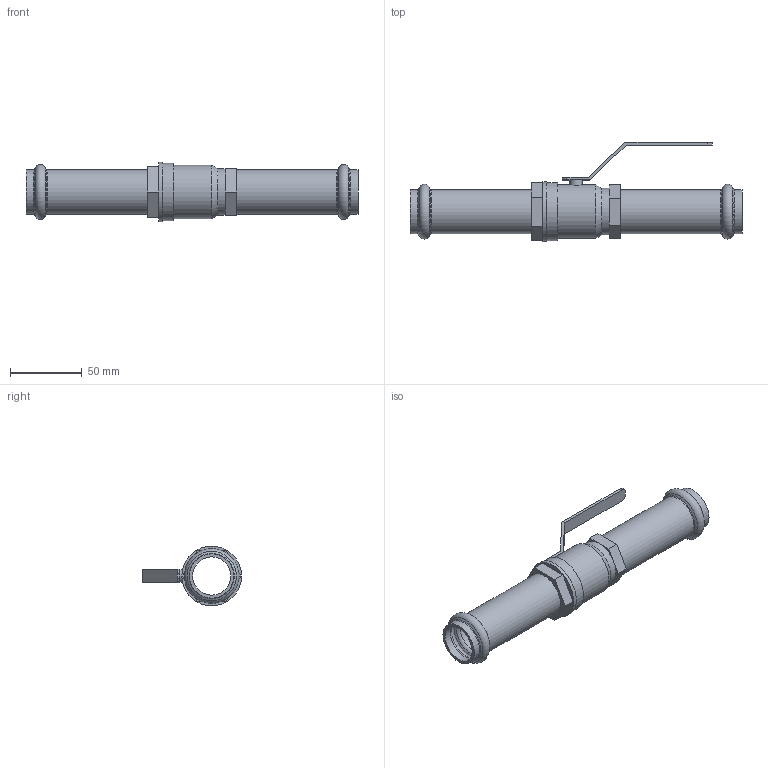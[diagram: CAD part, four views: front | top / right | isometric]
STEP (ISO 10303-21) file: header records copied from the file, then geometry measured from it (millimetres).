
FILE_DESCRIPTION(/* description */ ('VIC-PRESS 304 BRASS BODY BALL VALVE SERIES P589 (P X P)','CAx-IF Rec.Pracs.---Representation and Presentation of Product Manufacturing Information (PMI)---4.0---2014-10-13'),/* implementation_level */ '2;1');
FILE_NAME(/* name */ 'C:\Users\Vjadhav\AppData\Roaming\Autodesk\ApplicationPlugins\Back Up\Victaulic_SS-Vic-Press-TP 304_Valve Ball Brass Body_Series P589 (VP)\Victaulic_SS-Vic-Press-TP 304_Valve Ball Brass Body_Series P589 (VP)_0.75 (20).stp',/* time_stamp */ '2020-08-12T19:25:23+06:00',/* author */ ('cps_temp'),/* organization */ ('Victaulic'),/* preprocessor_version */ 'ST-DEVELOPER v17.2',/* originating_system */ 'Autodesk Inventor 2019',/* authorisation */ '');
FILE_SCHEMA (('AP242_MANAGED_MODEL_BASED_3D_ENGINEERING_MIM_LF { 1 0 10303 442 1 1 4 }'));
Length unit declared in the file: inch
Products named in the file (1): P589-0.75
Bounding box: 231.65 x 69.07 x 41.63 mm (x, y, z)
Volume: 68411.2 mm3; surface area: 49100.5 mm2
Topology: 1 solids, 1 shells, 72 faces, 219 edges, 156 vertices
Faces by surface type: plane 35, cylinder 16, torus 12, cone 9
Full cylindrical faces by diameter (mm): 8.763 x1, 26.67 x3, 30.886 x4, 32.41 x1, 37.462 x1, 40.357 x1, 41.627 x1
Entity records: 2825 total; most frequent: DIRECTION 515, CARTESIAN_POINT 499, ORIENTED_EDGE 438, EDGE_CURVE 219, AXIS2_PLACEMENT_3D 212, VERTEX_POINT 156, CIRCLE 126, LINE 91
